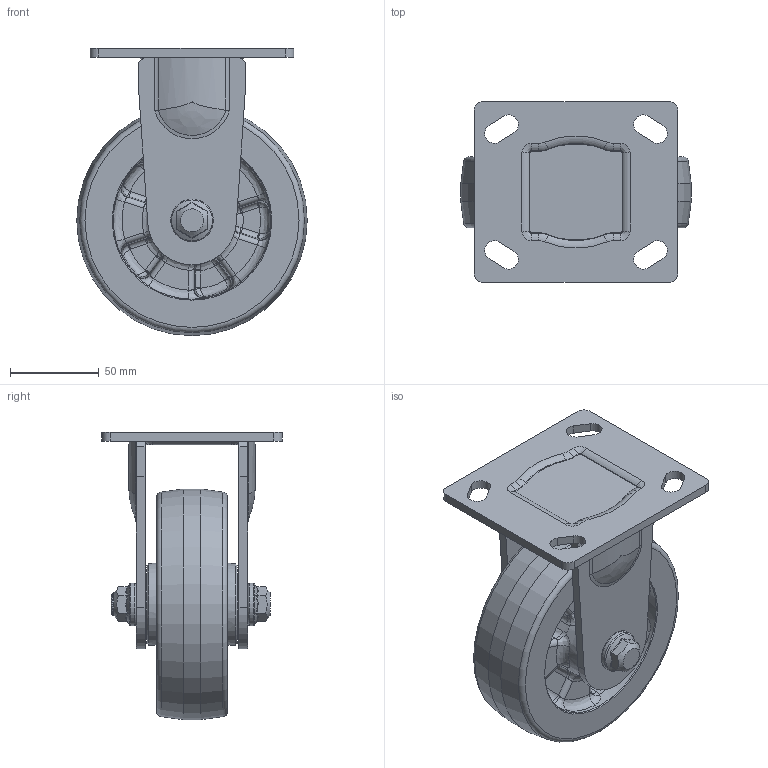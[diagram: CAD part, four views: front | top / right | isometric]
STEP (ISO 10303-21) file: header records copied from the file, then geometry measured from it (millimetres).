
FILE_DESCRIPTION((''),'2;1');
FILE_NAME('C:\Documents and Settings\Administrator\바탕 화면\3D STEP\PM-SERIES\PM-130A-RF\PM-130A-RF.stp','2010-12-27T15:05:01',('Administrator'),(''),'Autodesk Inventor 2009','Autodesk Inventor 2009','');
FILE_SCHEMA(('AUTOMOTIVE_DESIGN { 1 0 10303 214 1 1 1 1 }'));
Length unit declared in the file: millimetre
Products named in the file (1): PM-130A-RF
Bounding box: 130 x 102 x 162 mm (x, y, z)
Volume: 498714.7 mm3; surface area: 140945.3 mm2
Topology: 4 solids, 6 shells, 548 faces, 1371 edges, 801 vertices
Faces by surface type: bspline 268, plane 106, cylinder 97, cone 57, torus 20
Full cylindrical faces by diameter (mm): 12 x1, 21.5 x1, 24 x2, 30.5 x2, 35 x2, 35.18 x2, 130 x1
Entity records: 38171 total; most frequent: CARTESIAN_POINT 26896, ORIENTED_EDGE 2558, DIRECTION 1968, EDGE_CURVE 1279, AXIS2_PLACEMENT_3D 854, VERTEX_POINT 789, EDGE_LOOP 614, FACE_OUTER_BOUND 548
